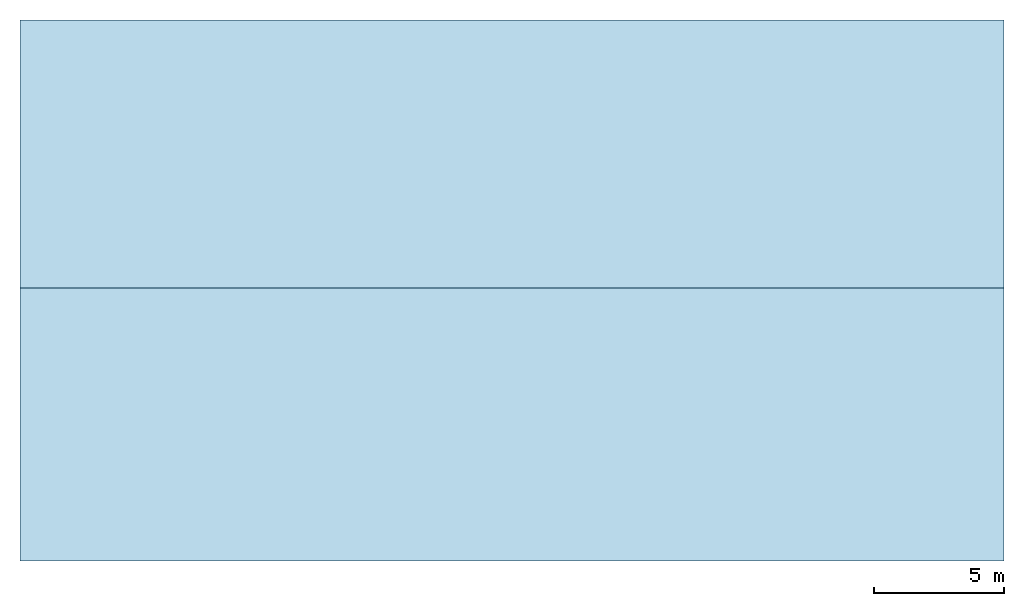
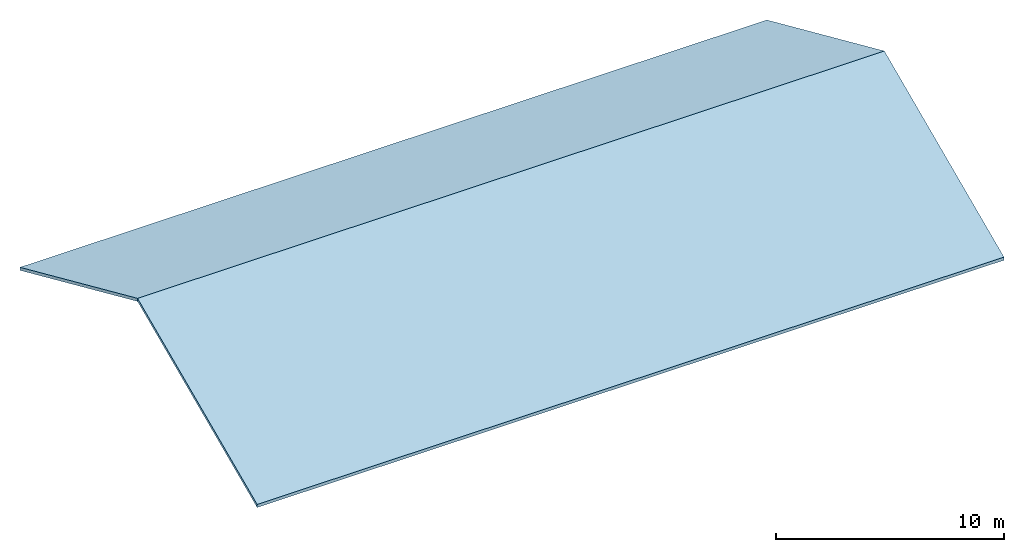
# One storey: 2 slabs, 1 element without a shape of its own.
"""IFC2X3 building model written with IfcOpenShell, lengths in millimetres."""

from ifc_helpers import new_model, entity, si_unit, converted_unit, derived_unit, direction, frame, frame_2d, origin, place, context, subcontext, project, spatial, rectangle, extrude, material, layer, layer_set, type_object, element, aggregate, save


model = new_model("IFC2X3")

# Units and contexts
model_context = context("Model", 3, precision=0.01, world=origin(), true_north=direction((6.123031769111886e-17, 1.0)))
body_context = subcontext(model_context, "Body", "Model", "MODEL_VIEW")
ifc_project = project(units=[si_unit("LENGTHUNIT", "METRE", prefix="MILLI"), si_unit("AREAUNIT", "SQUARE_METRE"), si_unit("VOLUMEUNIT", "CUBIC_METRE"), converted_unit("PLANEANGLEUNIT", "DEGREE", entity("IfcRatioMeasure", 0.017453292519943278), si_unit("PLANEANGLEUNIT", "RADIAN"), dimensions=[0, 0, 0, 0, 0, 0, 0]), si_unit("MASSUNIT", "GRAM", prefix="KILO"), derived_unit("MASSDENSITYUNIT", [(si_unit("MASSUNIT", "GRAM", prefix="KILO"), 1), (si_unit("LENGTHUNIT", "METRE"), -3)]), derived_unit("MOMENTOFINERTIAUNIT", [(si_unit("LENGTHUNIT", "METRE"), 4)]), si_unit("TIMEUNIT", "SECOND"), si_unit("FREQUENCYUNIT", "HERTZ"), si_unit("THERMODYNAMICTEMPERATUREUNIT", "DEGREE_CELSIUS"), derived_unit("THERMALTRANSMITTANCEUNIT", [(si_unit("MASSUNIT", "GRAM", prefix="KILO"), 1), (si_unit("THERMODYNAMICTEMPERATUREUNIT", "KELVIN"), -1), (si_unit("TIMEUNIT", "SECOND"), -3)]), derived_unit("VOLUMETRICFLOWRATEUNIT", [(si_unit("LENGTHUNIT", "METRE"), 3), (si_unit("TIMEUNIT", "SECOND"), -1)]), derived_unit("MASSFLOWRATEUNIT", [(si_unit("MASSUNIT", "GRAM", prefix="KILO"), 1), (si_unit("TIMEUNIT", "SECOND"), -1)]), derived_unit("ROTATIONALFREQUENCYUNIT", [(si_unit("TIMEUNIT", "SECOND"), -1)]), si_unit("ELECTRICCURRENTUNIT", "AMPERE"), si_unit("ELECTRICVOLTAGEUNIT", "VOLT"), si_unit("POWERUNIT", "WATT"), si_unit("FORCEUNIT", "NEWTON", prefix="KILO"), si_unit("ILLUMINANCEUNIT", "LUX"), si_unit("LUMINOUSFLUXUNIT", "LUMEN"), si_unit("LUMINOUSINTENSITYUNIT", "CANDELA"), derived_unit("USERDEFINED", [(si_unit("MASSUNIT", "GRAM", prefix="KILO"), -1), (si_unit("LENGTHUNIT", "METRE"), -2), (si_unit("TIMEUNIT", "SECOND"), 3), (si_unit("LUMINOUSFLUXUNIT", "LUMEN"), 1)]), derived_unit("SOUNDPOWERUNIT", [(si_unit("MASSUNIT", "GRAM", prefix="KILO"), 1), (si_unit("LENGTHUNIT", "METRE"), 2), (si_unit("TIMEUNIT", "SECOND"), -3)]), derived_unit("SOUNDPRESSUREUNIT", [(si_unit("MASSUNIT", "GRAM", prefix="KILO"), 1), (si_unit("LENGTHUNIT", "METRE"), -1), (si_unit("TIMEUNIT", "SECOND"), -2)]), derived_unit("LINEARVELOCITYUNIT", [(si_unit("LENGTHUNIT", "METRE"), 1), (si_unit("TIMEUNIT", "SECOND"), -1)]), si_unit("PRESSUREUNIT", "PASCAL"), derived_unit("USERDEFINED", [(si_unit("LENGTHUNIT", "METRE"), -2), (si_unit("MASSUNIT", "GRAM", prefix="KILO"), 1), (si_unit("TIMEUNIT", "SECOND"), -2)]), derived_unit("LINEARFORCEUNIT", [(si_unit("MASSUNIT", "GRAM", prefix="KILO"), 1), (si_unit("LENGTHUNIT", "METRE"), 1), (si_unit("TIMEUNIT", "SECOND"), -2), (si_unit("LENGTHUNIT", "METRE"), -1)]), derived_unit("PLANARFORCEUNIT", [(si_unit("MASSUNIT", "GRAM", prefix="KILO"), 1), (si_unit("LENGTHUNIT", "METRE"), 1), (si_unit("TIMEUNIT", "SECOND"), -2), (si_unit("LENGTHUNIT", "METRE"), -2)])], contexts=[model_context])

# Site, building, storey
site_placement = place(None, origin())
site = spatial("IfcSite", under=ifc_project, at=site_placement, Name="Default", CompositionType="ELEMENT")
building_placement = place(site_placement, origin())
building = spatial("IfcBuilding", under=site, at=building_placement, CompositionType="ELEMENT")
storey_placement = place(building_placement, frame((0.0, 0.0, 12150.0)))
storey = spatial("IfcBuildingStorey", under=building, at=storey_placement, Name="最高高さ", CompositionType="ELEMENT", Elevation=12150.000000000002)

# Roof, slabs
ifc_material_1 = material(Name="屋根、スレート")
ifc_layer_1 = layer(ifc_material_1, 30.0)
ifc_material_2 = material(Name="既定の屋根")
ifc_layer_2 = layer(ifc_material_2, 120.0)
ifc_layer_set = layer_set([ifc_layer_1, ifc_layer_2], Name="標準屋根:スレート-150mm")
roof_placement = place(storey_placement, frame((92443.09771177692, -1305.7727628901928, -4841.6668371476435)))
roof = element("IfcRoof", 1, at=roof_placement, inside=storey, material=ifc_layer_set, Name="標準屋根:スレート-150mm", ObjectType="標準屋根:スレート-150mm", ShapeType="NOTDEFINED")
slab_type_1 = type_object("IfcSlabType", Name="標準屋根:スレート-150mm", PredefinedType="ROOF")
slab_1_placement = place(roof_placement, origin())
slab_1 = element("IfcSlab", 2, at=slab_1_placement, type_object=slab_type_1, material=ifc_layer_set, Name="標準屋根:スレート-150mm", ObjectType="標準屋根:スレート-150mm", PredefinedType="ROOF", context=body_context, shape_type="SweptSolid", body=[
    extrude(rectangle(XDim=37869.626793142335, YDim=11500.000000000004, at=frame_2d((0.0, 4.547473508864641e-13), x_axis=(1.0, 0.0))), frame((18934.813396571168, 5252.886381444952, 2338.735697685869), z_axis=(0.0, -0.4067366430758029, 0.9135454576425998), x_axis=(1.0, 0.0, 0.0)), (0.0, 0.4067366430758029, 0.9135454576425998), 164.1954417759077),
])
slab_type_2 = type_object("IfcSlabType", Name="標準屋根:スレート-150mm", PredefinedType="ROOF")
slab_2_placement = place(roof_placement, origin())
slab_2 = element("IfcSlab", 3, at=slab_2_placement, type_object=slab_type_2, material=ifc_layer_set, Name="標準屋根:スレート-150mm", ObjectType="標準屋根:スレート-150mm", PredefinedType="ROOF", context=body_context, shape_type="SweptSolid", body=[
    extrude(rectangle(XDim=37869.626793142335, YDim=11300.000000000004, at=frame_2d((0.0, -4.547473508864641e-13), x_axis=(1.0, 0.0))), frame((18934.813396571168, 15667.304598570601, 2379.4093619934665), z_axis=(0.0, 0.4067366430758, 0.913545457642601), x_axis=(1.0, 0.0, 0.0)), (0.0, -0.4067366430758, 0.913545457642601), 164.1954417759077),
])
aggregate(roof, [slab_1, slab_2])

save(model, "model.ifc")
